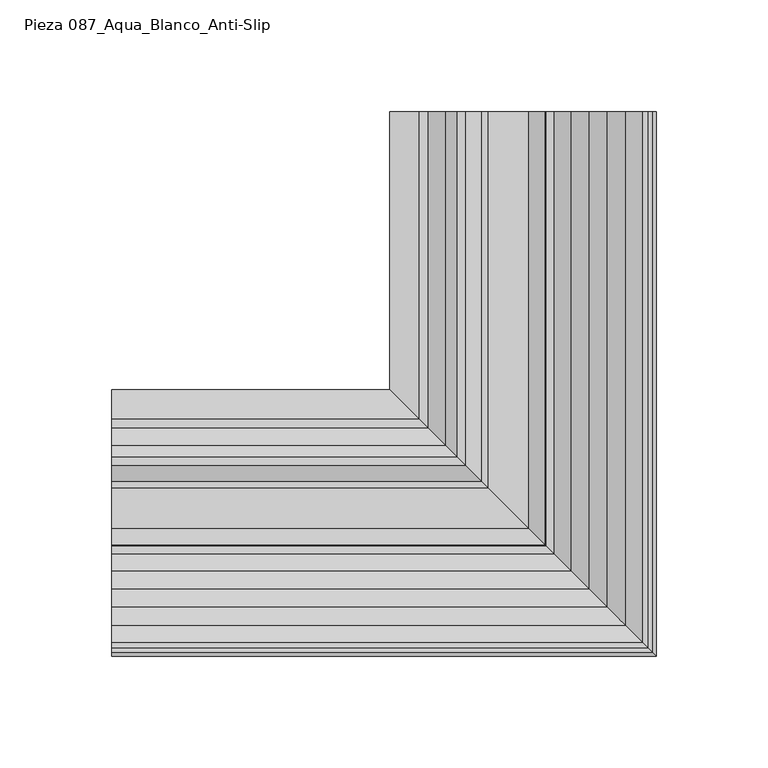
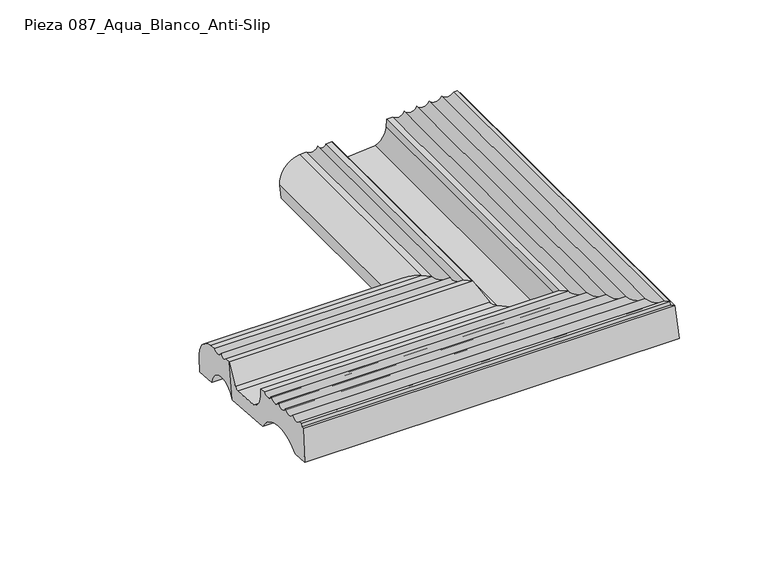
"""IFC4 building model written with IfcOpenShell, lengths in millimetres: proxy geometry, ROSA GRES_087 : Pieza 087_Aqua_Blanco_Anti-Slip."""

from ifc_helpers import new_model, si_unit, frame, origin, place, context, project, spatial, polyline, circle_curve, ellipse_curve, source, transform, mapped, element, save
from ifc_brep_helpers import plane_surface, cylinder_surface, revolved_surface, advanced_brep


def pieza_087_aqua_blanco_anti_slip_4671dbe1(model_context):
    return source(origin(), model_context, "Body", "AdvancedBrep", [
        advanced_brep(
        [(-124.7, -108.342302, 181.9645582), (-124.7, -119.2900344, 182.8556525), (-124.7, -117.4809059, 205.0820876), (-124.7, -115.5338707, 204.9236084), (-124.7, -115.3491545, 207.1930072), (-124.7, -113.0660814, 207.0070959), (-124.7, -105.2742048, 206.836894), (-124.7, -97.1292049, 206.1928503), (-124.7, -89.0833894, 205.555394), (-124.7, -81.0271834, 204.8942251), (-124.7, -73.3820924, 203.6902881), (-124.7, -69.6579726, 203.3871621), (-124.7, -69.3023399, 198.236672), (-124.7, -61.867532, 187.7902205), (-124.7, -43.8250834, 186.3216491), (-124.7, -40.9402045, 187.8896178), (-124.7, -33.8762309, 200.4746837), (-124.7, -37.1820416, 176.172444), (-124.7, -71.8498608, 178.9942432), (108.342302, 124.7, 181.9645582), (71.8498608, 124.7, 178.9942432), (37.1820416, 124.7, 176.172444), (33.8762309, 124.7, 200.4746837), (40.9402045, 124.7, 187.8896178), (43.8250834, 124.7, 186.3216491), (61.867532, 124.7, 187.7902205), (69.3023399, 124.7, 198.236672), (69.6579726, 124.7, 203.3871621), (73.3820924, 124.7, 203.6902881), (81.0271834, 124.7, 204.8942251), (89.0833894, 124.7, 205.555394), (97.1292049, 124.7, 206.1928503), (105.2742048, 124.7, 206.836894), (113.0660814, 124.7, 207.0070959), (115.3491545, 124.7, 207.1930072), (115.5338707, 124.7, 204.9236084), (117.4809059, 124.7, 205.0820876), (119.2900344, 124.7, 182.8556525), (71.8498608, -71.8498608, 178.9942432), (108.342302, -108.342302, 181.9645582), (37.1820416, -37.1820416, 176.172444), (33.8762309, -33.8762309, 200.4746837), (40.9402045, -40.9402045, 187.8896178), (43.8250834, -43.8250834, 186.3216491), (61.867532, -61.867532, 187.7902205), (69.3023399, -69.3023399, 198.236672), (69.6579726, -69.6579726, 203.3871621), (73.3820924, -73.3820924, 203.6902881), (81.0271834, -81.0271834, 204.8942251), (89.0833894, -89.0833894, 205.555394), (97.1292049, -97.1292049, 206.1928503), (105.2742048, -105.2742048, 206.836894), (113.0660814, -113.0660814, 207.0070959), (115.3491545, -115.3491545, 207.1930072), (115.5338707, -115.5338707, 204.9236084), (117.4809059, -117.4809059, 205.0820876), (119.2900344, -119.2900344, 182.8556525)],
        [
            (0, 1),
            (1, 2),
            (2, 3),
            (3, 4),
            (4, 5),
            (5, 6, circle_curve(frame((-124.7, -109.1074243, 209.7932705), z_axis=(1.0, 0.0, 0.0), x_axis=(0.0, 1.0, 0.0)), 4.8408403)),
            (6, 7, circle_curve(frame((-124.7, -100.9933064, 209.1504161), z_axis=(1.0, 0.0, 0.0), x_axis=(0.0, 1.0, 0.0)), 4.8660534)),
            (7, 8, circle_curve(frame((-124.7, -92.9342908, 208.0451437), z_axis=(1.0, 0.0, 0.0), x_axis=(0.0, 1.0, 0.0)), 4.5856619)),
            (8, 9, circle_curve(frame((-124.7, -84.8780848, 207.3839748), z_axis=(1.0, 0.0, 0.0), x_axis=(0.0, 1.0, 0.0)), 4.5856619)),
            (9, 10, circle_curve(frame((-124.7, -76.8218788, 206.722806), z_axis=(1.0, 0.0, 0.0), x_axis=(0.0, 1.0, 0.0)), 4.5856619)),
            (10, 11),
            (11, 12),
            (12, 13, circle_curve(frame((-124.7, -57.0579989, 199.0821231), z_axis=(1.0, 0.0, 0.0), x_axis=(0.0, 1.0, 0.0)), 12.2734948)),
            (13, 14),
            (14, 15, circle_curve(frame((-124.7, -43.5817022, 189.3117604), z_axis=(1.0, 0.0, 0.0), x_axis=(0.0, 1.0, 0.0)), 3.0)),
            (15, 16, circle_curve(frame((-124.7, -106.9597263, 233.2212806), z_axis=(1.0, 0.0, 0.0), x_axis=(0.0, 1.0, 0.0)), 80.084561)),
            (16, 17),
            (17, 18),
            (18, 0, circle_curve(frame((-124.7, -91.1625174, 167.3774726), z_axis=(1.0, 0.0, 0.0), x_axis=(0.0, 1.0, 0.0)), 22.5372595)),
            (19, 20, circle_curve(frame((91.1625174, 124.7, 167.3774726), z_axis=(0.0, -1.0, 0.0), x_axis=(-1.0, 0.0, 0.0)), 22.5372595)),
            (20, 21),
            (21, 22),
            (22, 23, circle_curve(frame((106.9597263, 124.7, 233.2212806), z_axis=(0.0, -1.0, 0.0), x_axis=(-1.0, 0.0, 0.0)), 80.084561)),
            (23, 24, circle_curve(frame((43.5817022, 124.7, 189.3117604), z_axis=(0.0, -1.0, 0.0), x_axis=(-1.0, 0.0, 0.0)), 3.0)),
            (24, 25),
            (25, 26, circle_curve(frame((57.0579989, 124.7, 199.0821231), z_axis=(0.0, -1.0, 0.0), x_axis=(-1.0, 0.0, 0.0)), 12.2734948)),
            (26, 27),
            (27, 28),
            (28, 29, circle_curve(frame((76.8218788, 124.7, 206.722806), z_axis=(0.0, -1.0, 0.0), x_axis=(-1.0, 0.0, 0.0)), 4.5856619)),
            (29, 30, circle_curve(frame((84.8780848, 124.7, 207.3839748), z_axis=(0.0, -1.0, 0.0), x_axis=(-1.0, 0.0, 0.0)), 4.5856619)),
            (30, 31, circle_curve(frame((92.9342908, 124.7, 208.0451437), z_axis=(0.0, -1.0, 0.0), x_axis=(-1.0, 0.0, 0.0)), 4.5856619)),
            (31, 32, circle_curve(frame((100.9933064, 124.7, 209.1504161), z_axis=(0.0, -1.0, 0.0), x_axis=(-1.0, 0.0, 0.0)), 4.8660534)),
            (32, 33, circle_curve(frame((109.1074243, 124.7, 209.7932705), z_axis=(0.0, -1.0, 0.0), x_axis=(-1.0, 0.0, 0.0)), 4.8408403)),
            (33, 34),
            (34, 35),
            (35, 36),
            (36, 37),
            (37, 19),
            (18, 38),
            (38, 39, ellipse_curve(frame((91.1625174, -91.1625174, 167.3774726), z_axis=(0.7071067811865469, 0.7071067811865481, 0.0), x_axis=(0.7071067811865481, -0.7071067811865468, 0.0)), 31.872498, 22.5372595)),
            (39, 0),
            (17, 40),
            (40, 38),
            (16, 41),
            (41, 40),
            (15, 42),
            (42, 41, ellipse_curve(frame((106.9597263, -106.9597263, 233.2212806), z_axis=(0.7071067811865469, 0.7071067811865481, 0.0), x_axis=(0.7071067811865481, -0.7071067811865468, 0.0)), 113.2566723, 80.084561)),
            (14, 43),
            (43, 42, ellipse_curve(frame((43.5817022, -43.5817022, 189.3117604), z_axis=(0.7071067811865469, 0.7071067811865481, 0.0), x_axis=(0.7071067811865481, -0.7071067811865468, 0.0)), 4.2426407, 3.0)),
            (13, 44),
            (44, 43),
            (12, 45),
            (45, 44, ellipse_curve(frame((57.0579989, -57.0579989, 199.0821231), z_axis=(0.7071067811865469, 0.7071067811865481, 0.0), x_axis=(0.7071067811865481, -0.7071067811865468, 0.0)), 17.3573428, 12.2734948)),
            (11, 46),
            (46, 45),
            (10, 47),
            (47, 46),
            (9, 48),
            (48, 47, ellipse_curve(frame((76.8218788, -76.8218788, 206.722806), z_axis=(0.7071067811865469, 0.7071067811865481, 0.0), x_axis=(0.7071067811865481, -0.7071067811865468, 0.0)), 6.4851052, 4.5856619)),
            (8, 49),
            (49, 48, ellipse_curve(frame((84.8780848, -84.8780848, 207.3839748), z_axis=(0.7071067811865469, 0.7071067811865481, 0.0), x_axis=(0.7071067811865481, -0.7071067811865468, 0.0)), 6.4851052, 4.5856619)),
            (7, 50),
            (50, 49, ellipse_curve(frame((92.9342908, -92.9342908, 208.0451437), z_axis=(0.7071067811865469, 0.7071067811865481, 0.0), x_axis=(0.7071067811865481, -0.7071067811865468, 0.0)), 6.4851052, 4.5856619)),
            (6, 51),
            (51, 50, ellipse_curve(frame((100.9933064, -100.9933064, 209.1504161), z_axis=(0.7071067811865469, 0.7071067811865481, 0.0), x_axis=(0.7071067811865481, -0.7071067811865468, 0.0)), 6.8816387, 4.8660534)),
            (5, 52),
            (52, 51, ellipse_curve(frame((109.1074243, -109.1074243, 209.7932705), z_axis=(0.7071067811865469, 0.7071067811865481, 0.0), x_axis=(0.7071067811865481, -0.7071067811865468, 0.0)), 6.8459819, 4.8408403)),
            (4, 53),
            (53, 52),
            (3, 54),
            (54, 53),
            (2, 55),
            (55, 54),
            (1, 56),
            (56, 55),
            (39, 56),
            (38, 20),
            (19, 39),
            (40, 21),
            (41, 22),
            (42, 23),
            (43, 24),
            (44, 25),
            (45, 26),
            (46, 27),
            (47, 28),
            (48, 29),
            (49, 30),
            (50, 31),
            (51, 32),
            (52, 33),
            (53, 34),
            (54, 35),
            (55, 36),
            (56, 37),
        ],
        [
            plane_surface(frame((-124.7, 0.0, 0.0), z_axis=(-1.0, 0.0, 0.0), x_axis=(0.0, 0.0, 1.0))),
            plane_surface(frame((0.0, 124.7, 0.0), z_axis=(0.0, 1.0, 0.0), x_axis=(0.0, 0.0, 1.0))),
            revolved_surface(polyline([(113.69977686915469, -68.6252579, 167.3774726), (-124.7, -68.6252579, 167.3774726)]), (-124.7, -91.1625174, 167.3774726), (1.0, 0.0, 0.0)),
            plane_surface(frame((-124.7, -71.8498608, 178.9942432), z_axis=(0.0, -0.08112705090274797, -0.9967037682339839), x_axis=(1.0, 0.0, 0.0))),
            plane_surface(frame((-124.7, -37.1820416, 176.172444), z_axis=(0.0, 0.9908744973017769, -0.13478772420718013), x_axis=(1.0, 0.0, 0.0))),
            revolved_surface(polyline([(187.04428729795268, -26.875165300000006, 233.2212806), (-124.7, -26.875165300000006, 233.2212806)]), (-124.7, -106.9597263, 233.2212806), (1.0, 0.0, 0.0)),
            revolved_surface(polyline([(46.58170220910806, -40.5817022, 189.3117604), (-124.7, -40.5817022, 189.3117604)]), (-124.7, -43.5817022, 189.3117604), (1.0, 0.0, 0.0)),
            plane_surface(frame((-124.7, -43.8250834, 186.3216491), z_axis=(0.0, 0.08112705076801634, 0.9967037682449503), x_axis=(1.0, 0.0, 0.0))),
            revolved_surface(polyline([(69.33149369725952, -44.7845041, 199.0821231), (-124.7, -44.7845041, 199.0821231)]), (-124.7, -57.0579989, 199.0821231), (1.0, 0.0, 0.0)),
            plane_surface(frame((-124.7, -69.3023399, 198.236672), z_axis=(0.0, 0.9976246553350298, 0.0688843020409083), x_axis=(1.0, 0.0, 0.0))),
            plane_surface(frame((-124.7, -69.6579726, 203.3871621), z_axis=(0.0, 0.08112705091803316, 0.9967037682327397), x_axis=(1.0, 0.0, 0.0))),
            revolved_surface(polyline([(81.40754066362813, -72.23621689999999, 206.722806), (-124.7, -72.23621689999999, 206.722806)]), (-124.7, -76.8218788, 206.722806), (1.0, 0.0, 0.0)),
            revolved_surface(polyline([(89.46374666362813, -80.29242289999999, 207.3839748), (-124.7, -80.29242289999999, 207.3839748)]), (-124.7, -84.8780848, 207.3839748), (1.0, 0.0, 0.0)),
            revolved_surface(polyline([(97.51995266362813, -88.3486289, 208.0451437), (-124.7, -88.3486289, 208.0451437)]), (-124.7, -92.9342908, 208.0451437), (1.0, 0.0, 0.0)),
            revolved_surface(polyline([(105.85935979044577, -96.127253, 209.1504161), (-124.7, -96.127253, 209.1504161)]), (-124.7, -100.9933064, 209.1504161), (1.0, 0.0, 0.0)),
            revolved_surface(polyline([(113.94826452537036, -104.26658400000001, 209.7932705), (-124.7, -104.26658400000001, 209.7932705)]), (-124.7, -109.1074243, 209.7932705), (1.0, 0.0, 0.0)),
            plane_surface(frame((-124.7, -113.0660814, 207.0070959), z_axis=(0.0, 0.08116163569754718, 0.9967009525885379), x_axis=(1.0, 0.0, 0.0))),
            plane_surface(frame((-124.7, -115.3491545, 207.1930072), z_axis=(0.0, -0.9967038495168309, 0.08112605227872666), x_axis=(1.0, 0.0, 0.0))),
            plane_surface(frame((-124.7, -115.5338707, 204.9236084), z_axis=(0.0, 0.081126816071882, 0.9967037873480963), x_axis=(1.0, 0.0, 0.0))),
            plane_surface(frame((-124.7, -117.4809059, 205.0820876), z_axis=(0.0, -0.9967037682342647, 0.0811270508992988), x_axis=(1.0, 0.0, 0.0))),
            plane_surface(frame((-124.7, -119.2900344, 182.8556525), z_axis=(0.0, -0.08112703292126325, -0.9967037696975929), x_axis=(1.0, 0.0, 0.0))),
            revolved_surface(polyline([(68.6252579, 124.7, 167.3774726), (68.6252579, -113.69977686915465, 167.3774726)]), (91.1625174, 0.0, 167.3774726), (0.0, 1.0, 0.0)),
            plane_surface(frame((71.8498608, -71.8498608, 178.9942432), z_axis=(0.08112705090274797, 0.0, -0.9967037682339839), x_axis=(0.0, 1.0, 0.0))),
            plane_surface(frame((37.1820416, -37.1820416, 176.172444), z_axis=(-0.9908744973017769, 0.0, -0.13478772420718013), x_axis=(0.0, 1.0, 0.0))),
            revolved_surface(polyline([(26.875165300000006, 124.7, 233.2212806), (26.875165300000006, -187.04428729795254, 233.2212806)]), (106.9597263, 0.0, 233.2212806), (0.0, 1.0, 0.0)),
            revolved_surface(polyline([(40.5817022, 124.7, 189.3117604), (40.5817022, -46.58170220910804, 189.3117604)]), (43.5817022, 0.0, 189.3117604), (0.0, 1.0, 0.0)),
            plane_surface(frame((43.8250834, -43.8250834, 186.3216491), z_axis=(-0.08112705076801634, 0.0, 0.9967037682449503), x_axis=(0.0, 1.0, 0.0))),
            revolved_surface(polyline([(44.7845041, 124.7, 199.0821231), (44.7845041, -69.33149369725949, 199.0821231)]), (57.0579989, 0.0, 199.0821231), (0.0, 1.0, 0.0)),
            plane_surface(frame((69.3023399, -69.3023399, 198.236672), z_axis=(-0.9976246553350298, 0.0, 0.0688843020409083), x_axis=(0.0, 1.0, 0.0))),
            plane_surface(frame((69.6579726, -69.6579726, 203.3871621), z_axis=(-0.08112705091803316, 0.0, 0.9967037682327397), x_axis=(0.0, 1.0, 0.0))),
            revolved_surface(polyline([(72.23621689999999, 124.7, 206.722806), (72.23621689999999, -81.40754066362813, 206.722806)]), (76.8218788, 0.0, 206.722806), (0.0, 1.0, 0.0)),
            revolved_surface(polyline([(80.29242289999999, 124.7, 207.3839748), (80.29242289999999, -89.46374666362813, 207.3839748)]), (84.8780848, 0.0, 207.3839748), (0.0, 1.0, 0.0)),
            revolved_surface(polyline([(88.3486289, 124.7, 208.0451437), (88.3486289, -97.51995266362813, 208.0451437)]), (92.9342908, 0.0, 208.0451437), (0.0, 1.0, 0.0)),
            revolved_surface(polyline([(96.127253, 124.7, 209.1504161), (96.127253, -105.85935979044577, 209.1504161)]), (100.9933064, 0.0, 209.1504161), (0.0, 1.0, 0.0)),
            revolved_surface(polyline([(104.26658400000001, 124.7, 209.7932705), (104.26658400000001, -113.94826452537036, 209.7932705)]), (109.1074243, 0.0, 209.7932705), (0.0, 1.0, 0.0)),
            plane_surface(frame((113.0660814, -113.0660814, 207.0070959), z_axis=(-0.08116163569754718, 0.0, 0.9967009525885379), x_axis=(0.0, 1.0, 0.0))),
            plane_surface(frame((115.3491545, -115.3491545, 207.1930072), z_axis=(0.9967038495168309, 0.0, 0.08112605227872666), x_axis=(0.0, 1.0, 0.0))),
            plane_surface(frame((115.5338707, -115.5338707, 204.9236084), z_axis=(-0.081126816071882, 0.0, 0.9967037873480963), x_axis=(0.0, 1.0, 0.0))),
            plane_surface(frame((117.4809059, -117.4809059, 205.0820876), z_axis=(0.9967037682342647, 0.0, 0.0811270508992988), x_axis=(0.0, 1.0, 0.0))),
            plane_surface(frame((119.2900344, -119.2900344, 182.8556525), z_axis=(0.08112703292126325, 0.0, -0.9967037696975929), x_axis=(0.0, 1.0, 0.0))),
        ],
        [
            (0, [[1, 2, 3, 4, 5, 6, 7, 8, 9, 10, 11, 12, 13, 14, 15, 16, 17, 18, 19]]),
            (1, [[20, 21, 22, 23, 24, 25, 26, 27, 28, 29, 30, 31, 32, 33, 34, 35, 36, 37, 38]]),
            (2, [[39, 40, 41, -19]]),
            (3, [[42, 43, -39, -18]]),
            (4, [[44, 45, -42, -17]]),
            (5, [[46, 47, -44, -16]]),
            (6, [[48, 49, -46, -15]]),
            (7, [[50, 51, -48, -14]]),
            (8, [[52, 53, -50, -13]]),
            (9, [[54, 55, -52, -12]]),
            (10, [[56, 57, -54, -11]]),
            (11, [[58, 59, -56, -10]]),
            (12, [[60, 61, -58, -9]]),
            (13, [[62, 63, -60, -8]]),
            (14, [[64, 65, -62, -7]]),
            (15, [[66, 67, -64, -6]]),
            (16, [[68, 69, -66, -5]]),
            (17, [[70, 71, -68, -4]]),
            (18, [[72, 73, -70, -3]]),
            (19, [[74, 75, -72, -2]]),
            (20, [[-41, 76, -74, -1]]),
            (21, [[77, -20, 78, -40]]),
            (22, [[79, -21, -77, -43]]),
            (23, [[80, -22, -79, -45]]),
            (24, [[81, -23, -80, -47]]),
            (25, [[82, -24, -81, -49]]),
            (26, [[83, -25, -82, -51]]),
            (27, [[84, -26, -83, -53]]),
            (28, [[85, -27, -84, -55]]),
            (29, [[86, -28, -85, -57]]),
            (30, [[87, -29, -86, -59]]),
            (31, [[88, -30, -87, -61]]),
            (32, [[89, -31, -88, -63]]),
            (33, [[90, -32, -89, -65]]),
            (34, [[91, -33, -90, -67]]),
            (35, [[92, -34, -91, -69]]),
            (36, [[93, -35, -92, -71]]),
            (37, [[94, -36, -93, -73]]),
            (38, [[95, -37, -94, -75]]),
            (39, [[-78, -38, -95, -76]]),
        ],
    ),
        advanced_brep(
        [(-124.7, -14.3742659, 174.3159971), (-124.7, -37.1820416, 176.172444), (-124.7, -33.8762309, 200.4746837), (-124.7, -29.9345538, 200.1538709), (-124.7, -24.7247274, 200.6193952), (-124.7, -16.9364731, 199.1796191), (-124.7, -12.7748841, 198.875801), (-124.7, 0.0710994, 182.547869), (-124.7, -0.6896004, 173.202129), (0.6896004, -0.6896004, 173.202129), (14.3742659, -14.3742659, 174.3159971), (-0.0710994, 0.0710994, 182.547869), (12.7748841, -12.7748841, 198.875801), (16.9364731, -16.9364731, 199.1796191), (24.7247274, -24.7247274, 200.6193952), (29.9345538, -29.9345538, 200.1538709), (33.8762309, -33.8762309, 200.4746837), (37.1820416, -37.1820416, 176.172444), (14.3742659, 124.7099656, 174.3159971), (0.6896004, 124.7099656, 173.202129), (-0.0710994, 124.7099656, 182.547869), (12.7748841, 124.7099656, 198.875801), (16.9364731, 124.7099656, 199.1796191), (24.7247274, 124.7099656, 200.6193952), (29.9345538, 124.7099656, 200.1538709), (33.8762309, 124.7099656, 200.4746837), (37.1820416, 124.7099656, 176.172444)],
        [
            (0, 1, circle_curve(frame((-124.7, -25.9545763, 173.0767428), z_axis=(1.0, 0.0, 0.0), x_axis=(0.0, 1.0, 0.0)), 11.6464304)),
            (1, 2),
            (2, 3),
            (3, 4, circle_curve(frame((-124.7, -27.3971937, 201.142641), z_axis=(1.0, 0.0, 0.0), x_axis=(0.0, 1.0, 0.0)), 2.7232081)),
            (4, 5, circle_curve(frame((-124.7, -20.3008643, 202.7650351), z_axis=(1.0, 0.0, 0.0), x_axis=(0.0, 1.0, 0.0)), 4.9167404)),
            (5, 6),
            (6, 7, circle_curve(frame((-124.7, -15.1536138, 183.7870899), z_axis=(-1.0, 0.0, 0.0), x_axis=(0.0, 1.0, 0.0)), 15.2750633)),
            (7, 8),
            (8, 0),
            (8, 9),
            (9, 10),
            (10, 0),
            (7, 11),
            (11, 9),
            (6, 12),
            (12, 11, ellipse_curve(frame((15.1536138, -15.1536138, 183.7870899), z_axis=(-0.7071067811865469, -0.7071067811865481, 0.0), x_axis=(-0.7071067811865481, 0.7071067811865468, 0.0)), 21.6022017, 15.2750633)),
            (5, 13),
            (13, 12),
            (4, 14),
            (14, 13, ellipse_curve(frame((20.3008643, -20.3008643, 202.7650351), z_axis=(0.7071067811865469, 0.7071067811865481, 0.0), x_axis=(0.7071067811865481, -0.7071067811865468, 0.0)), 6.9533209, 4.9167404)),
            (3, 15),
            (15, 14, ellipse_curve(frame((27.3971937, -27.3971937, 201.142641), z_axis=(0.7071067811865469, 0.7071067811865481, 0.0), x_axis=(0.7071067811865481, -0.7071067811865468, 0.0)), 3.8511979, 2.7232081)),
            (2, 16),
            (16, 15),
            (1, 17),
            (17, 16),
            (10, 17, ellipse_curve(frame((25.9545763, -25.9545763, 173.0767428), z_axis=(0.7071067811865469, 0.7071067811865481, 0.0), x_axis=(0.7071067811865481, -0.7071067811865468, 0.0)), 16.4705399, 11.6464304)),
            (18, 19),
            (19, 20),
            (20, 21, circle_curve(frame((15.1536138, 124.7099656, 183.7870899), z_axis=(0.0, 1.0, 0.0), x_axis=(-1.0, 0.0, 0.0)), 15.2750633)),
            (21, 22),
            (22, 23, circle_curve(frame((20.3008643, 124.7099656, 202.7650351), z_axis=(0.0, -1.0, 0.0), x_axis=(-1.0, 0.0, 0.0)), 4.9167404)),
            (23, 24, circle_curve(frame((27.3971937, 124.7099656, 201.142641), z_axis=(0.0, -1.0, 0.0), x_axis=(-1.0, 0.0, 0.0)), 2.7232081)),
            (24, 25),
            (25, 26),
            (26, 18, circle_curve(frame((25.9545763, 124.7099656, 173.0767428), z_axis=(0.0, -1.0, 0.0), x_axis=(-1.0, 0.0, 0.0)), 11.6464304)),
            (9, 19),
            (18, 10),
            (11, 20),
            (12, 21),
            (13, 22),
            (14, 23),
            (15, 24),
            (16, 25),
            (17, 26),
        ],
        [
            plane_surface(frame((-124.7, 0.0, 0.0), z_axis=(-1.0, 0.0, 0.0), x_axis=(0.0, 0.0, 1.0))),
            plane_surface(frame((-124.7, -14.3742659, 174.3159971), z_axis=(0.0, -0.0811270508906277, -0.9967037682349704), x_axis=(1.0, 0.0, 0.0))),
            plane_surface(frame((-124.7, -0.6896004, 173.202129), z_axis=(0.0, 0.9967037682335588, -0.08112705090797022), x_axis=(1.0, 0.0, 0.0))),
            cylinder_surface(frame((-124.7, -15.1536138, 183.7870899), z_axis=(-1.0, 0.0, 0.0), x_axis=(0.0, 1.0, 0.0)), 15.2750633),
            plane_surface(frame((-124.7, -12.7748841, 198.875801), z_axis=(0.0, 0.07281152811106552, 0.9973457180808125), x_axis=(1.0, 0.0, 0.0))),
            revolved_surface(polyline([(25.21760466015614, -15.3841239, 202.7650351), (-124.7, -15.3841239, 202.7650351)]), (-124.7, -20.3008643, 202.7650351), (1.0, 0.0, 0.0)),
            revolved_surface(polyline([(30.12040185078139, -24.673985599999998, 201.142641), (-124.7, -24.673985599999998, 201.142641)]), (-124.7, -27.3971937, 201.142641), (1.0, 0.0, 0.0)),
            plane_surface(frame((-124.7, -29.9345538, 200.1538709), z_axis=(0.0, 0.0811216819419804, 0.9967042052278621), x_axis=(1.0, 0.0, 0.0))),
            plane_surface(frame((-124.7, -33.8762309, 200.4746837), z_axis=(0.0, -0.9908744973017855, 0.13478772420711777), x_axis=(1.0, 0.0, 0.0))),
            revolved_surface(polyline([(37.601006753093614, -14.3081459, 173.0767428), (-124.7, -14.3081459, 173.0767428)]), (-124.7, -25.9545763, 173.0767428), (1.0, 0.0, 0.0)),
            plane_surface(frame((0.0, 124.7099656, 0.0), z_axis=(0.0, 1.0, 0.0), x_axis=(0.0, 0.0, 1.0))),
            plane_surface(frame((14.3742659, -14.3742659, 174.3159971), z_axis=(0.0811270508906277, 0.0, -0.9967037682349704), x_axis=(0.0, 1.0, 0.0))),
            plane_surface(frame((0.6896004, -0.6896004, 173.202129), z_axis=(-0.9967037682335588, 0.0, -0.08112705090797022), x_axis=(0.0, 1.0, 0.0))),
            cylinder_surface(frame((15.1536138, 0.0, 183.7870899), z_axis=(0.0, -1.0, 0.0), x_axis=(-1.0, 0.0, 0.0)), 15.2750633),
            plane_surface(frame((12.7748841, -12.7748841, 198.875801), z_axis=(-0.07281152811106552, 0.0, 0.9973457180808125), x_axis=(0.0, 1.0, 0.0))),
            revolved_surface(polyline([(15.3841239, 124.7099656, 202.7650351), (15.3841239, -25.21760466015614, 202.7650351)]), (20.3008643, 0.0, 202.7650351), (0.0, 1.0, 0.0)),
            revolved_surface(polyline([(24.673985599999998, 124.7099656, 201.142641), (24.673985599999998, -30.120401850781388, 201.142641)]), (27.3971937, 0.0, 201.142641), (0.0, 1.0, 0.0)),
            plane_surface(frame((29.9345538, -29.9345538, 200.1538709), z_axis=(-0.0811216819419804, 0.0, 0.9967042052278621), x_axis=(0.0, 1.0, 0.0))),
            plane_surface(frame((33.8762309, -33.8762309, 200.4746837), z_axis=(0.9908744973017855, 0.0, 0.13478772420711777), x_axis=(0.0, 1.0, 0.0))),
            revolved_surface(polyline([(14.3081459, 124.7099656, 173.0767428), (14.3081459, -37.601006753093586, 173.0767428)]), (25.9545763, 0.0, 173.0767428), (0.0, 1.0, 0.0)),
        ],
        [
            (0, [[1, 2, 3, 4, 5, 6, 7, 8, 9]]),
            (1, [[10, 11, 12, -9]]),
            (2, [[13, 14, -10, -8]]),
            (3, [[15, 16, -13, -7]]),
            (4, [[17, 18, -15, -6]]),
            (5, [[19, 20, -17, -5]]),
            (6, [[21, 22, -19, -4]]),
            (7, [[23, 24, -21, -3]]),
            (8, [[25, 26, -23, -2]]),
            (9, [[-12, 27, -25, -1]]),
            (10, [[28, 29, 30, 31, 32, 33, 34, 35, 36]]),
            (11, [[37, -28, 38, -11]]),
            (12, [[39, -29, -37, -14]]),
            (13, [[40, -30, -39, -16]]),
            (14, [[41, -31, -40, -18]]),
            (15, [[42, -32, -41, -20]]),
            (16, [[43, -33, -42, -22]]),
            (17, [[44, -34, -43, -24]]),
            (18, [[45, -35, -44, -26]]),
            (19, [[-38, -36, -45, -27]]),
        ],
    ),
    ])


if __name__ == "__main__":
    model = new_model("IFC4")
    model_context = context("Model", 3, world=origin())
    ifc_project = project(units=[si_unit("LENGTHUNIT", "METRE", prefix="MILLI")], contexts=[model_context])
    site = spatial("IfcSite", under=ifc_project)
    building = spatial("IfcBuilding", under=site)
    placement = place(None, origin())
    pieza_087_aqua_blanco_anti_slip_shape = pieza_087_aqua_blanco_anti_slip_4671dbe1(model_context)
    element("IfcBuildingElementProxy", 1, Name="ROSA GRES_087 : Pieza 087_Aqua_Blanco_Anti-Slip", ObjectType="ROSA GRES_087 : Pieza 087_Aqua_Blanco_Anti-Slip", at=placement, inside=building, context=model_context, shape_type="MappedRepresentation", body=[
        mapped(pieza_087_aqua_blanco_anti_slip_shape, transform((0.0, 0.0, 0.0), x_axis=(1.0, 0.0, 0.0), y_axis=(0.0, 1.0, 0.0), z_axis=(0.0, 0.0, 1.0))),
    ])
    save(model, "model.ifc")
